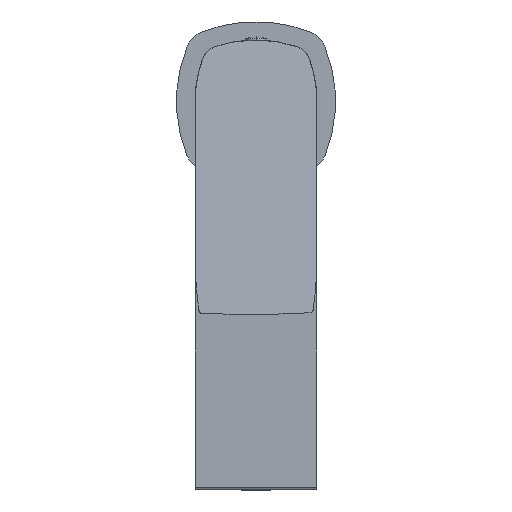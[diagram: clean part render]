
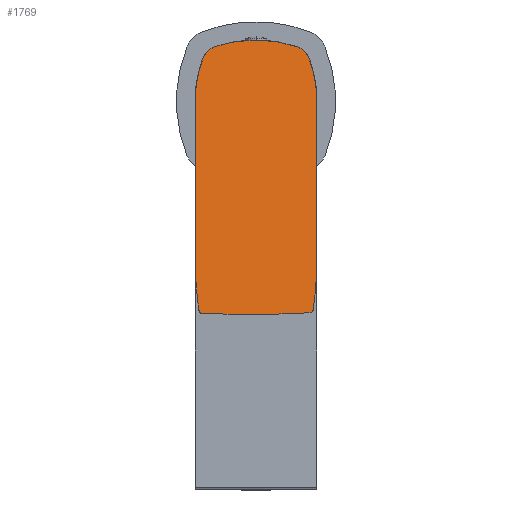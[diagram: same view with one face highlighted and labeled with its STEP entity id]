
A CAD part, top view. The second image highlights one B-rep face of the part: STEP entity #1769.
In plain terms, the highlighted planar face has unit normal (0, 0.134, 0.991).
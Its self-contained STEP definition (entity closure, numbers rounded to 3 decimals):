
#1769 = ADVANCED_FACE('',(#1770),#1878,.F.);
#1770 = FACE_BOUND('',#1771,.T.);
#1771 = EDGE_LOOP('',(#1772,#1783,#1791,#1800,#1809,#1818,#1827,#1836,
    #1844,#1853,#1862,#1871));
#1772 = ORIENTED_EDGE('',*,*,#1773,.T.);
#1773 = EDGE_CURVE('',#1774,#1776,#1778,.T.);
#1774 = VERTEX_POINT('',#1775);
#1775 = CARTESIAN_POINT('',(16.937,-62.083,
    135.295));
#1776 = VERTEX_POINT('',#1777);
#1777 = CARTESIAN_POINT('',(18.,-46.988,
    133.259));
#1778 = ELLIPSE('',#1779,108.691,107.715);
#1779 = AXIS2_PLACEMENT_3D('',#1780,#1781,#1782);
#1780 = CARTESIAN_POINT('',(-89.715,-46.988,
    133.259));
#1781 = DIRECTION('',(0.,0.134,0.991)
  );
#1782 = DIRECTION('',(0.,-0.991,0.134)
  );
#1783 = ORIENTED_EDGE('',*,*,#1784,.T.);
#1784 = EDGE_CURVE('',#1776,#1785,#1787,.T.);
#1785 = VERTEX_POINT('',#1786);
#1786 = CARTESIAN_POINT('',(18.,0.05,
    126.913));
#1787 = LINE('',#1788,#1789);
#1788 = CARTESIAN_POINT('',(18.,0.05,
    126.913));
#1789 = VECTOR('',#1790,1.);
#1790 = DIRECTION('',(0.,0.991,-0.134)
  );
#1791 = ORIENTED_EDGE('',*,*,#1792,.T.);
#1792 = EDGE_CURVE('',#1785,#1793,#1795,.T.);
#1793 = VERTEX_POINT('',#1794);
#1794 = CARTESIAN_POINT('',(15.654,12.615,
    125.218));
#1795 = ELLIPSE('',#1796,35.129,34.814);
#1796 = AXIS2_PLACEMENT_3D('',#1797,#1798,#1799);
#1797 = CARTESIAN_POINT('',(-16.814,0.05,
    126.913));
#1798 = DIRECTION('',(0.,0.134,0.991)
  );
#1799 = DIRECTION('',(0.,0.991,-0.134));
#1800 = ORIENTED_EDGE('',*,*,#1801,.T.);
#1801 = EDGE_CURVE('',#1793,#1802,#1804,.T.);
#1802 = VERTEX_POINT('',#1803);
#1803 = CARTESIAN_POINT('',(12.301,15.835,
    124.784));
#1804 = ELLIPSE('',#1805,5.55,5.5);
#1805 = AXIS2_PLACEMENT_3D('',#1806,#1807,#1808);
#1806 = CARTESIAN_POINT('',(10.524,10.63,
    125.486));
#1807 = DIRECTION('',(0.,0.134,0.991)
  );
#1808 = DIRECTION('',(0.,0.991,-0.134)
  );
#1809 = ORIENTED_EDGE('',*,*,#1810,.T.);
#1810 = EDGE_CURVE('',#1802,#1811,#1813,.T.);
#1811 = VERTEX_POINT('',#1812);
#1812 = CARTESIAN_POINT('',(-12.301,15.835,
    124.784));
#1813 = ELLIPSE('',#1814,38.43,38.085);
#1814 = AXIS2_PLACEMENT_3D('',#1815,#1816,#1817);
#1815 = CARTESIAN_POINT('',(0.,-20.209,
    129.646));
#1816 = DIRECTION('',(0.,0.134,0.991)
  );
#1817 = DIRECTION('',(0.,0.991,-0.134));
#1818 = ORIENTED_EDGE('',*,*,#1819,.T.);
#1819 = EDGE_CURVE('',#1811,#1820,#1822,.T.);
#1820 = VERTEX_POINT('',#1821);
#1821 = CARTESIAN_POINT('',(-15.654,12.615,
    125.218));
#1822 = ELLIPSE('',#1823,5.55,5.5);
#1823 = AXIS2_PLACEMENT_3D('',#1824,#1825,#1826);
#1824 = CARTESIAN_POINT('',(-10.524,10.63,
    125.486));
#1825 = DIRECTION('',(0.,0.134,0.991)
  );
#1826 = DIRECTION('',(0.,0.991,-0.134)
  );
#1827 = ORIENTED_EDGE('',*,*,#1828,.T.);
#1828 = EDGE_CURVE('',#1820,#1829,#1831,.T.);
#1829 = VERTEX_POINT('',#1830);
#1830 = CARTESIAN_POINT('',(-18.,0.05,
    126.913));
#1831 = ELLIPSE('',#1832,35.129,34.814);
#1832 = AXIS2_PLACEMENT_3D('',#1833,#1834,#1835);
#1833 = CARTESIAN_POINT('',(16.814,0.05,
    126.913));
#1834 = DIRECTION('',(0.,0.134,0.991)
  );
#1835 = DIRECTION('',(0.,-0.991,0.134)
  );
#1836 = ORIENTED_EDGE('',*,*,#1837,.T.);
#1837 = EDGE_CURVE('',#1829,#1838,#1840,.T.);
#1838 = VERTEX_POINT('',#1839);
#1839 = CARTESIAN_POINT('',(-18.,-46.988,
    133.259));
#1840 = LINE('',#1841,#1842);
#1841 = CARTESIAN_POINT('',(-18.,-46.988,
    133.259));
#1842 = VECTOR('',#1843,1.);
#1843 = DIRECTION('',(0.,-0.991,0.134)
  );
#1844 = ORIENTED_EDGE('',*,*,#1845,.T.);
#1845 = EDGE_CURVE('',#1838,#1846,#1848,.T.);
#1846 = VERTEX_POINT('',#1847);
#1847 = CARTESIAN_POINT('',(-16.915,-62.241,
    135.316));
#1848 = ELLIPSE('',#1849,108.691,107.715);
#1849 = AXIS2_PLACEMENT_3D('',#1850,#1851,#1852);
#1850 = CARTESIAN_POINT('',(89.715,-46.988,
    133.259));
#1851 = DIRECTION('',(0.,0.134,0.991)
  );
#1852 = DIRECTION('',(0.,0.991,-0.134
    ));
#1853 = ORIENTED_EDGE('',*,*,#1854,.T.);
#1854 = EDGE_CURVE('',#1846,#1855,#1857,.T.);
#1855 = VERTEX_POINT('',#1856);
#1856 = CARTESIAN_POINT('',(-15.972,-63.098,
    135.432));
#1857 = ELLIPSE('',#1858,1.009,1.);
#1858 = AXIS2_PLACEMENT_3D('',#1859,#1860,#1861);
#1859 = CARTESIAN_POINT('',(-15.925,-62.099,
    135.297));
#1860 = DIRECTION('',(0.,0.134,0.991)
  );
#1861 = DIRECTION('',(0.,0.991,-0.134
    ));
#1862 = ORIENTED_EDGE('',*,*,#1863,.T.);
#1863 = EDGE_CURVE('',#1855,#1864,#1866,.T.);
#1864 = VERTEX_POINT('',#1865);
#1865 = CARTESIAN_POINT('',(16.004,-62.941,
    135.411));
#1866 = ELLIPSE('',#1867,309.929,307.146);
#1867 = AXIS2_PLACEMENT_3D('',#1868,#1869,#1870);
#1868 = CARTESIAN_POINT('',(-1.485,243.707,
    94.044));
#1869 = DIRECTION('',(0.,0.134,0.991)
  );
#1870 = DIRECTION('',(0.,0.991,-0.134
    ));
#1871 = ORIENTED_EDGE('',*,*,#1872,.T.);
#1872 = EDGE_CURVE('',#1864,#1774,#1873,.T.);
#1873 = ELLIPSE('',#1874,1.009,1.);
#1874 = AXIS2_PLACEMENT_3D('',#1875,#1876,#1877);
#1875 = CARTESIAN_POINT('',(15.947,-61.943,
    135.276));
#1876 = DIRECTION('',(0.,0.134,0.991)
  );
#1877 = DIRECTION('',(0.,0.991,-0.134
    ));
#1878 = PLANE('',#1879);
#1879 = AXIS2_PLACEMENT_3D('',#1880,#1881,#1882);
#1880 = CARTESIAN_POINT('',(25.,-79.162,
    137.599));
#1881 = DIRECTION('',(0.,-0.134,
    -0.991));
#1882 = DIRECTION('',(-1.,0.,0.));
